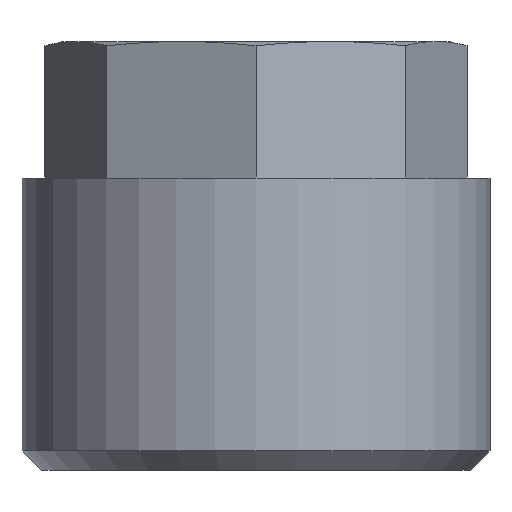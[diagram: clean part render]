
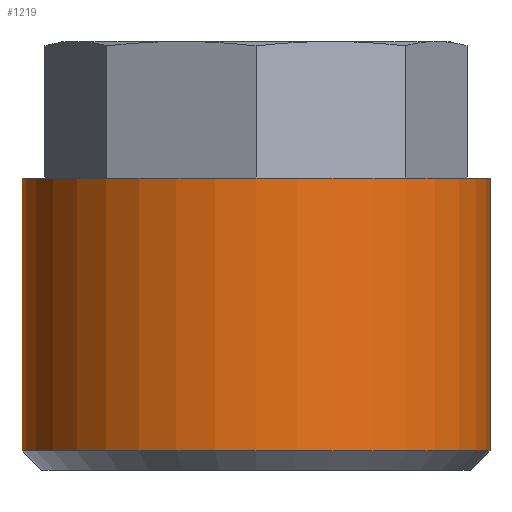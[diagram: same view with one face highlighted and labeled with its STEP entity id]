
A CAD part, front view. The second image highlights one B-rep face of the part: STEP entity #1219.
In plain terms, the highlighted cylindrical face has radius 6 mm (diameter 12 mm), a full revolution.
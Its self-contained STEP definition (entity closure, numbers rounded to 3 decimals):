
#586=CYLINDRICAL_SURFACE('',#1174,6.);
#679=ORIENTED_EDGE('',*,*,#786,.F.);
#680=ORIENTED_EDGE('',*,*,#787,.T.);
#702=CIRCLE('',#1173,6.);
#703=CIRCLE('',#1175,6.);
#736=VERTEX_POINT('',#1105);
#737=VERTEX_POINT('',#1108);
#786=EDGE_CURVE('',#736,#736,#702,.T.);
#787=EDGE_CURVE('',#737,#737,#703,.T.);
#819=EDGE_LOOP('',(#679));
#820=EDGE_LOOP('',(#680));
#857=FACE_BOUND('',#819,.T.);
#858=FACE_BOUND('',#820,.T.);
#985=DIRECTION('',(0.,1.,0.));
#986=DIRECTION('',(0.,0.,-6.));
#987=DIRECTION('',(0.,1.,0.));
#988=DIRECTION('',(1.,0.,0.));
#989=DIRECTION('',(0.,1.,0.));
#990=DIRECTION('',(0.,0.,6.));
#1105=CARTESIAN_POINT('',(0.,7.5,-6.));
#1106=CARTESIAN_POINT('',(0.,7.5,0.));
#1107=CARTESIAN_POINT('',(0.,0.5,0.));
#1108=CARTESIAN_POINT('',(0.,0.5,6.));
#1109=CARTESIAN_POINT('',(0.,0.5,0.));
#1173=AXIS2_PLACEMENT_3D('',#1106,#985,#986);
#1174=AXIS2_PLACEMENT_3D('',#1107,#987,#988);
#1175=AXIS2_PLACEMENT_3D('',#1109,#989,#990);
#1219=ADVANCED_FACE('',(#857,#858),#586,.T.);
